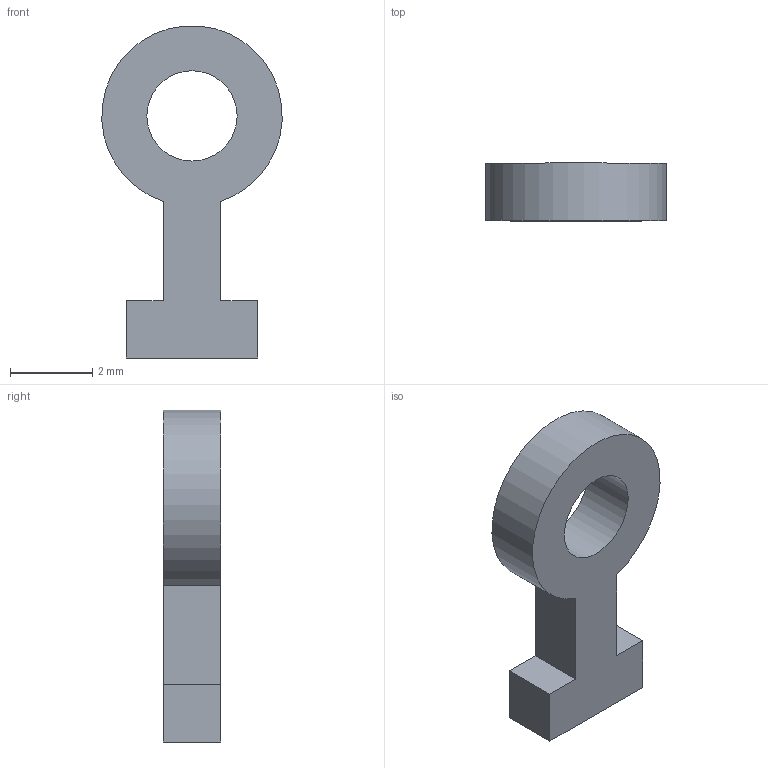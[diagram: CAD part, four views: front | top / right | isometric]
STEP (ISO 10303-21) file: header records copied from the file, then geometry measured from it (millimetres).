
FILE_DESCRIPTION(('Open CASCADE Model'),'2;1');
FILE_NAME('PCB_EDGE_CLIP_2','2026-09-06T11:49:22',('Author'),( 'Open CASCADE'),'Open CASCADE STEP processor 7.8','build123d', 'Unknown');
FILE_SCHEMA(('AUTOMOTIVE_DESIGN { 1 0 10303 214 1 1 1 1 }'));
Length unit declared in the file: millimetre
Products named in the file (2): =>[0:1:1:2]; PCB_EDGE_CLIP_2
Assembly tree (1 placements, depth 2):
  =>[0:1:1:2]
    PCB_EDGE_CLIP_2
Bounding box: 4.39 x 1.4 x 8.09 mm (x, y, z)
Volume: 26.8 mm3; surface area: 83 mm2
Topology: 1 solids, 1 shells, 11 faces, 27 edges, 18 vertices
Faces by surface type: plane 9, cylinder 2
Full cylindrical faces by diameter (mm): 2.2 x1
Entity records: 718 total; most frequent: CARTESIAN_POINT 138, DIRECTION 105, LINE 71, VECTOR 71, ORIENTED_EDGE 54, PCURVE 54, DEFINITIONAL_REPRESENTATION 54, EDGE_CURVE 27
